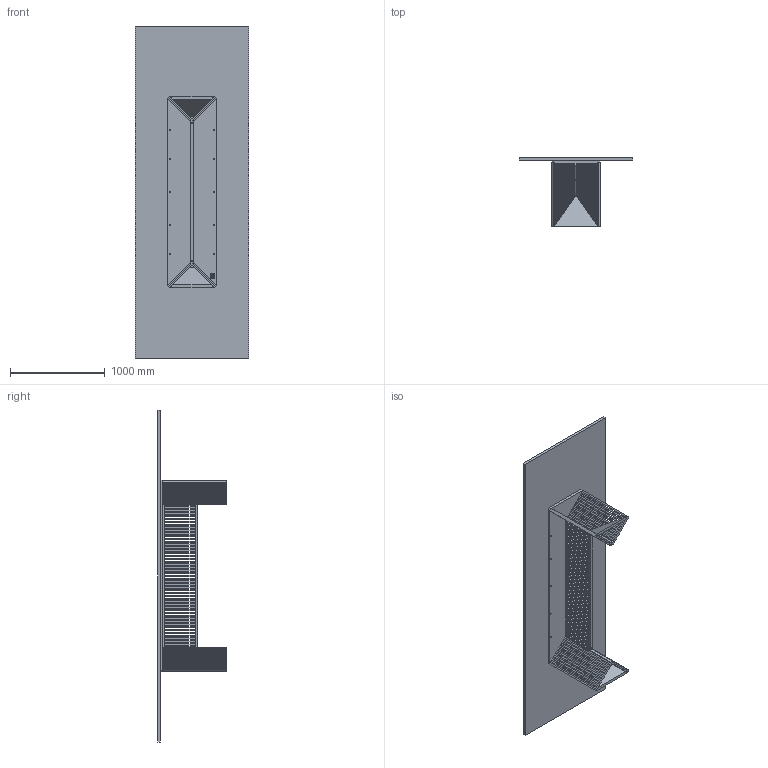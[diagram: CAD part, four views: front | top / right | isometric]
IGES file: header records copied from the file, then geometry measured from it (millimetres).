
Start section: SolidWorks IGES file using NURBS representation for surfaces
Global section: file name: C:\Users\prell\Desktop\MAESTRO 120X350.IGS; native system: SolidWorks 2019; preprocessor: SolidWorks 2019; author: prell; date: 210916.150933; units: millimetre
Bounding box: 1200 x 725.14 x 3500 mm (x, y, z)
Surface area: 16908160.9 mm2 (no closed solid volume)
Topology: 0 solids, 0 shells, 1475 faces, 6285 edges, 6169 vertices
Faces by surface type: bspline 1475
